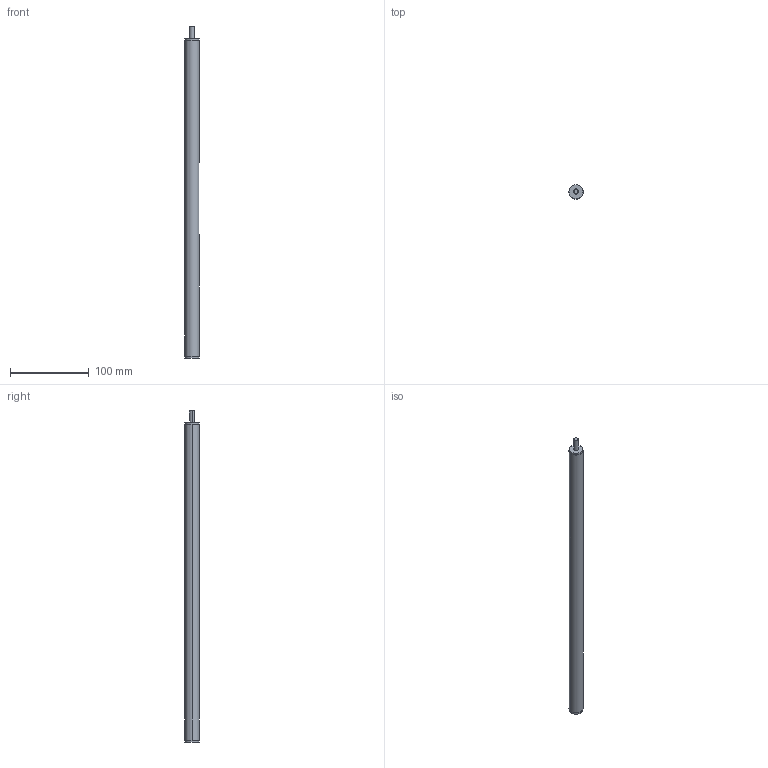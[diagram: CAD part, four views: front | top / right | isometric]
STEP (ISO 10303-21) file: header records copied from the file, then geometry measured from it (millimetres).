
FILE_DESCRIPTION (( 'STEP AP214' ), '1' );
FILE_NAME ('291-18-265-L1-SCR.step', '2023-08-30T05:19:37', ( '' ), ( '' ), 'SwSTEP 2.0', 'SolidWorks 2022', '' );
FILE_SCHEMA (( 'AUTOMOTIVE_DESIGN' ));
Length unit declared in the file: millimetre
Products named in the file (3): 291-18-265-L1-SCR; WB2910 Rund^WBVES_18-265-1; WB2910 mutter^WBVES_Tr10-M3
Assembly tree (2 placements, depth 2):
  291-18-265-L1-SCR
    WB2910 mutter^WBVES_Tr10-M3
    WB2910 Rund^WBVES_18-265-1
Bounding box: 18 x 18 x 421 mm (x, y, z)
Volume: 56072.2 mm3; surface area: 58211.3 mm2
Topology: 2 solids, 2 shells, 44 faces, 106 edges, 68 vertices
Faces by surface type: cylinder 25, plane 17, cone 2
Entity records: 1781 total; most frequent: CARTESIAN_POINT 458, DIRECTION 228, ORIENTED_EDGE 212, EDGE_CURVE 106, AXIS2_PLACEMENT_3D 88, VERTEX_POINT 68, EDGE_LOOP 54, VECTOR 52
